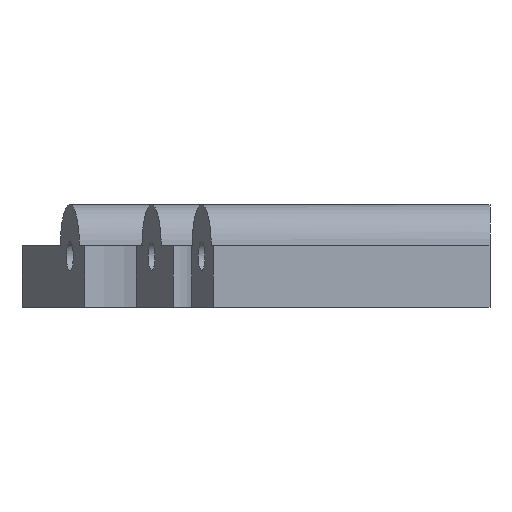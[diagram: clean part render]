
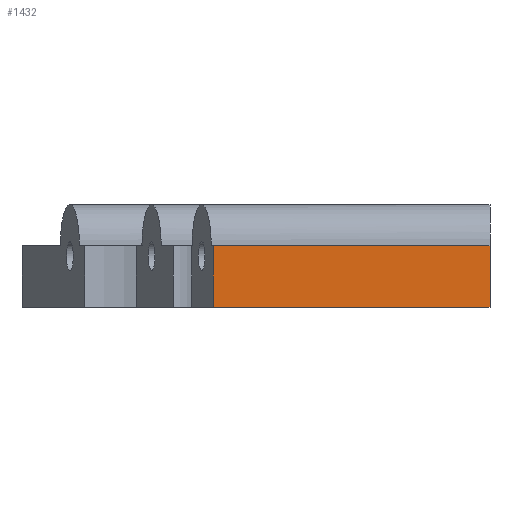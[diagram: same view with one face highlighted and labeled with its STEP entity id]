
A CAD part, front view. The second image highlights one B-rep face of the part: STEP entity #1432.
In plain terms, the highlighted planar face has unit normal (0, -1, 0) as drawn and (0, 0, -1) by its records, which use the part's own axes.
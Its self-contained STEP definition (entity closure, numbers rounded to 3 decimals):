
#181=FACE_OUTER_BOUND('',#265,.T.);
#265=EDGE_LOOP('',(#1274,#1275,#1276,#1277));
#394=LINE('',#2454,#542);
#407=LINE('',#2487,#555);
#416=LINE('',#2512,#564);
#418=LINE('',#2515,#566);
#542=VECTOR('',#1758,10.);
#555=VECTOR('',#1791,10.);
#564=VECTOR('',#1814,10.);
#566=VECTOR('',#1818,10.);
#684=VERTEX_POINT('',#2451);
#685=VERTEX_POINT('',#2453);
#695=VERTEX_POINT('',#2485);
#704=VERTEX_POINT('',#2510);
#870=EDGE_CURVE('',#685,#684,#394,.T.);
#887=EDGE_CURVE('',#684,#695,#407,.T.);
#899=EDGE_CURVE('',#695,#704,#416,.T.);
#901=EDGE_CURVE('',#704,#685,#418,.T.);
#1274=ORIENTED_EDGE('',*,*,#901,.T.);
#1275=ORIENTED_EDGE('',*,*,#870,.T.);
#1276=ORIENTED_EDGE('',*,*,#887,.T.);
#1277=ORIENTED_EDGE('',*,*,#899,.T.);
#1364=PLANE('',#1523);
#1432=ADVANCED_FACE('',(#181),#1364,.F.);
#1523=AXIS2_PLACEMENT_3D('',#2514,#1816,#1817);
#1758=DIRECTION('',(0.,-1.,0.));
#1791=DIRECTION('',(-1.,0.,0.));
#1814=DIRECTION('',(0.,1.,0.));
#1816=DIRECTION('center_axis',(0.,0.,
1.));
#1817=DIRECTION('ref_axis',(-1.,0.,0.));
#1818=DIRECTION('',(1.,0.,0.));
#2451=CARTESIAN_POINT('',(10.,273.982,-70.));
#2453=CARTESIAN_POINT('',(10.,279.982,-70.));
#2454=CARTESIAN_POINT('',(10.,289.982,-70.));
#2485=CARTESIAN_POINT('',(-16.967,273.982,-70.));
#2487=CARTESIAN_POINT('',(10.,273.982,-70.));
#2510=CARTESIAN_POINT('',(-16.967,279.982,-70.));
#2512=CARTESIAN_POINT('',(-16.967,289.982,-70.));
#2514=CARTESIAN_POINT('Origin',(10.,289.982,-70.));
#2515=CARTESIAN_POINT('',(0.,279.982,-70.));
